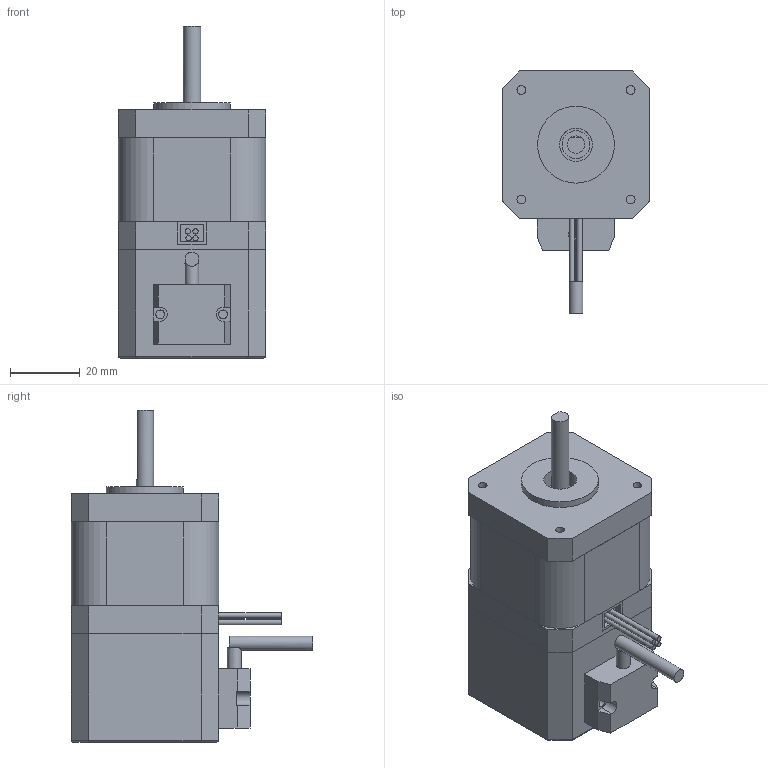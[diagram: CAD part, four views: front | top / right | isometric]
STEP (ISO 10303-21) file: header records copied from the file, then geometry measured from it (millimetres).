
FILE_DESCRIPTION(/* description */ (''),/* implementation_level */ '2;1');
FILE_NAME(/* name */ 'MP3-42HZ040.step',/* time_stamp */ '2021-07-28T10:55:12+08:00',/* author */ (''),/* organization */ (''),/* preprocessor_version */ 'ST-DEVELOPER v16',/* originating_system */ 'SIEMENS PLM Software NX 10.0',/* authorisation */ '');
FILE_SCHEMA (('AUTOMOTIVE_DESIGN { 1 0 10303 214 3 1 1 1 }'));
Length unit declared in the file: millimetre
Products named in the file (1): MP3-42HZ040
Bounding box: 42.2 x 69.2 x 95 mm (x, y, z)
Volume: 126024 mm3; surface area: 29341 mm2
Topology: 13 solids, 13 shells, 137 faces, 309 edges, 206 vertices
Faces by surface type: plane 94, cylinder 43
Full cylindrical faces by diameter (mm): 1.5 x4, 2.5 x10, 4 x2, 5 x2, 6 x4, 8 x2, 9.5 x2, 22 x2
Entity records: 3711 total; most frequent: CARTESIAN_POINT 624, DIRECTION 617, ORIENTED_EDGE 534, EDGE_CURVE 267, AXIS2_PLACEMENT_3D 216, EDGE_LOOP 198, VERTEX_POINT 193, LINE 185
